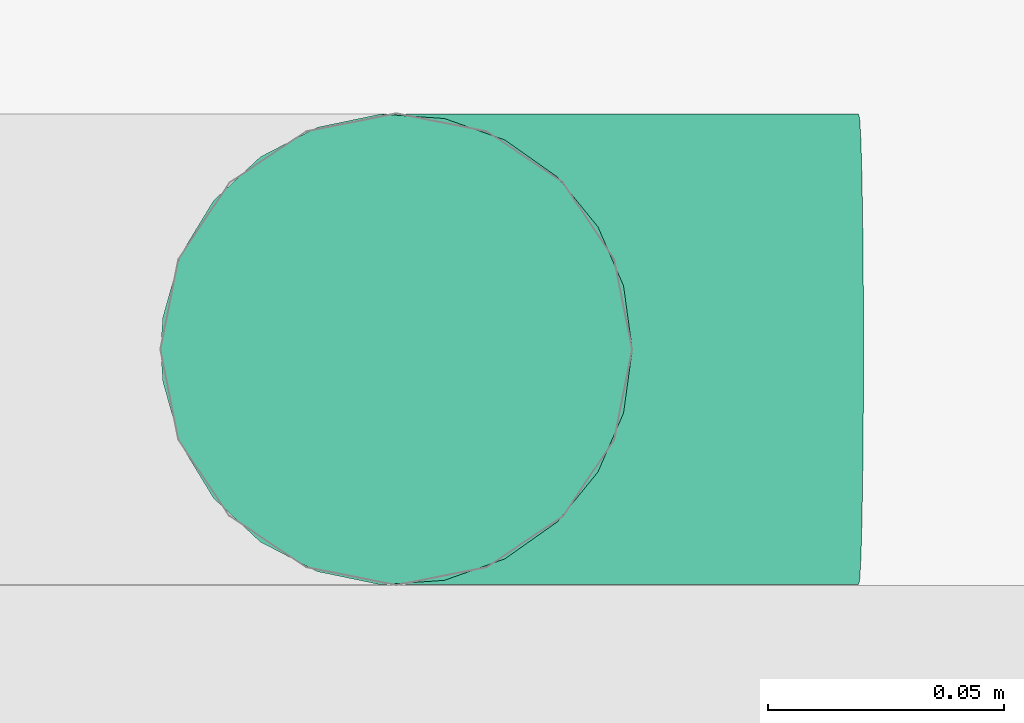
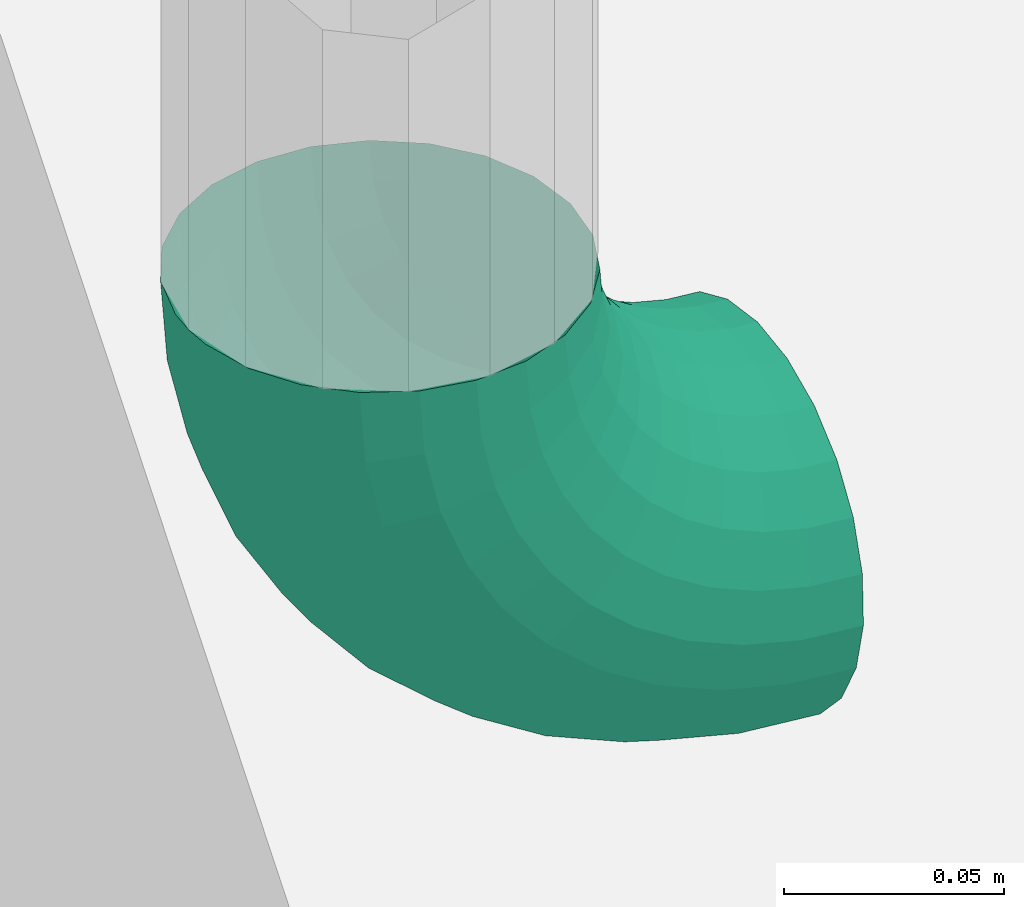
# One storey, part 89 of 106: 1 flow fitting.
"""IFC2X3 building model written with IfcOpenShell, lengths in metres."""

from ifc_helpers import new_model, entity, si_unit, converted_unit, derived_unit, money_unit, direction, frame, origin_with_axes, place, context, subcontext, project, spatial, open_shell, surface_model, material, type_object, element, save


model = new_model("IFC2X3")

# Units and contexts
model_context = context("Model", 3, precision=1e-05, world=origin_with_axes(), true_north=direction((0.0, 1.0)))
body_context = subcontext(model_context, "Body", "Model", "MODEL_VIEW", scale=1.0)
ifc_project = project(units=[si_unit("LENGTHUNIT", "METRE"), si_unit("AREAUNIT", "SQUARE_METRE"), si_unit("VOLUMEUNIT", "CUBIC_METRE"), si_unit("ABSORBEDDOSEUNIT", "GRAY"), si_unit("AMOUNTOFSUBSTANCEUNIT", "MOLE"), si_unit("DOSEEQUIVALENTUNIT", "SIEVERT"), si_unit("ELECTRICCAPACITANCEUNIT", "FARAD"), si_unit("ELECTRICCHARGEUNIT", "COULOMB"), si_unit("ELECTRICCONDUCTANCEUNIT", "SIEMENS"), si_unit("ELECTRICCURRENTUNIT", "AMPERE"), si_unit("ELECTRICRESISTANCEUNIT", "OHM"), si_unit("ELECTRICVOLTAGEUNIT", "VOLT"), si_unit("ENERGYUNIT", "JOULE"), si_unit("FORCEUNIT", "NEWTON"), si_unit("FREQUENCYUNIT", "HERTZ"), si_unit("ILLUMINANCEUNIT", "LUX"), si_unit("INDUCTANCEUNIT", "HENRY"), si_unit("LUMINOUSFLUXUNIT", "LUMEN"), si_unit("LUMINOUSINTENSITYUNIT", "CANDELA"), si_unit("MAGNETICFLUXDENSITYUNIT", "TESLA"), si_unit("MAGNETICFLUXUNIT", "WEBER"), si_unit("MASSUNIT", "GRAM"), converted_unit("PLANEANGLEUNIT", "degree", entity("IfcReal", 0.0174532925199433), si_unit("PLANEANGLEUNIT", "RADIAN"), dimensions=[0, 0, 0, 0, 0, 0, 0]), si_unit("POWERUNIT", "WATT"), si_unit("PRESSUREUNIT", "PASCAL"), si_unit("RADIOACTIVITYUNIT", "BECQUEREL"), si_unit("SOLIDANGLEUNIT", "STERADIAN"), si_unit("THERMODYNAMICTEMPERATUREUNIT", "KELVIN"), si_unit("TIMEUNIT", "SECOND"), derived_unit("ACCELERATIONUNIT", [(si_unit("LENGTHUNIT", "METRE"), 1), (si_unit("TIMEUNIT", "SECOND"), -2)]), derived_unit("ANGULARVELOCITYUNIT", [(converted_unit("PLANEANGLEUNIT", "degree", entity("IfcReal", 0.0174532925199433), si_unit("PLANEANGLEUNIT", "RADIAN"), dimensions=[0, 0, 0, 0, 0, 0, 0]), 1), (si_unit("TIMEUNIT", "SECOND"), -1)]), derived_unit("CURVATUREUNIT", [(converted_unit("PLANEANGLEUNIT", "degree", entity("IfcReal", 0.0174532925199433), si_unit("PLANEANGLEUNIT", "RADIAN"), dimensions=[0, 0, 0, 0, 0, 0, 0]), 1), (si_unit("LENGTHUNIT", "METRE"), -1)]), derived_unit("DYNAMICVISCOSITYUNIT", [(si_unit("PRESSUREUNIT", "PASCAL"), 1), (si_unit("TIMEUNIT", "SECOND"), 1)]), derived_unit("HEATFLUXDENSITYUNIT", [(si_unit("POWERUNIT", "WATT"), 1), (si_unit("LENGTHUNIT", "METRE"), -2)]), derived_unit("HEATINGVALUEUNIT", [(si_unit("ENERGYUNIT", "JOULE"), 1), (si_unit("MASSUNIT", "GRAM"), -1)]), derived_unit("INTEGERCOUNTRATEUNIT", [(si_unit("TIMEUNIT", "SECOND"), -1)]), derived_unit("IONCONCENTRATIONUNIT", [(si_unit("MASSUNIT", "GRAM"), 1), (si_unit("VOLUMEUNIT", "CUBIC_METRE"), -1)]), derived_unit("ISOTHERMALMOISTURECAPACITYUNIT", [(si_unit("VOLUMEUNIT", "CUBIC_METRE"), 1), (si_unit("MASSUNIT", "GRAM"), -1)]), derived_unit("KINEMATICVISCOSITYUNIT", [(si_unit("AREAUNIT", "SQUARE_METRE"), 1), (si_unit("TIMEUNIT", "SECOND"), -1)]), derived_unit("LINEARFORCEUNIT", [(si_unit("FORCEUNIT", "NEWTON"), 1), (si_unit("LENGTHUNIT", "METRE"), -1)]), derived_unit("LINEARMOMENTUNIT", [(si_unit("FORCEUNIT", "NEWTON"), 1), (si_unit("LENGTHUNIT", "METRE"), -1)]), derived_unit("LINEARSTIFFNESSUNIT", [(si_unit("FORCEUNIT", "NEWTON"), 1), (si_unit("LENGTHUNIT", "METRE"), -1)]), derived_unit("LINEARVELOCITYUNIT", [(si_unit("LENGTHUNIT", "METRE"), 1), (si_unit("TIMEUNIT", "SECOND"), -1)]), derived_unit("LUMINOUSINTENSITYDISTRIBUTIONUNIT", [(si_unit("LUMINOUSINTENSITYUNIT", "CANDELA"), 1), (si_unit("LUMINOUSFLUXUNIT", "LUMEN"), -1)]), derived_unit("MASSDENSITYUNIT", [(si_unit("MASSUNIT", "GRAM"), 1), (si_unit("VOLUMEUNIT", "CUBIC_METRE"), -1)]), derived_unit("MASSFLOWRATEUNIT", [(si_unit("MASSUNIT", "GRAM"), 1), (si_unit("TIMEUNIT", "SECOND"), -1)]), derived_unit("MASSPERLENGTHUNIT", [(si_unit("MASSUNIT", "GRAM"), 1), (si_unit("LENGTHUNIT", "METRE"), -1)]), derived_unit("MODULUSOFELASTICITYUNIT", [(si_unit("FORCEUNIT", "NEWTON"), 1), (si_unit("AREAUNIT", "SQUARE_METRE"), -1)]), derived_unit("MODULUSOFLINEARSUBGRADEREACTIONUNIT", [(si_unit("FORCEUNIT", "NEWTON"), 1), (si_unit("LENGTHUNIT", "METRE"), -2)]), derived_unit("MODULUSOFROTATIONALSUBGRADEREACTIONUNIT", [(si_unit("FORCEUNIT", "NEWTON"), 1), (si_unit("LENGTHUNIT", "METRE"), 1)]), derived_unit("MODULUSOFSUBGRADEREACTIONUNIT", [(si_unit("FORCEUNIT", "NEWTON"), 1), (si_unit("VOLUMEUNIT", "CUBIC_METRE"), -1)]), derived_unit("MOISTUREDIFFUSIVITYUNIT", [(si_unit("VOLUMEUNIT", "CUBIC_METRE"), 1), (si_unit("TIMEUNIT", "SECOND"), -1)]), derived_unit("MOLECULARWEIGHTUNIT", [(si_unit("MASSUNIT", "GRAM"), 1), (si_unit("AMOUNTOFSUBSTANCEUNIT", "MOLE"), -1)]), derived_unit("PLANARFORCEUNIT", [(si_unit("FORCEUNIT", "NEWTON"), 1), (si_unit("LENGTHUNIT", "METRE"), -2)]), derived_unit("ROTATIONALFREQUENCYUNIT", [(si_unit("TIMEUNIT", "SECOND"), -1)]), derived_unit("ROTATIONALMASSUNIT", [(si_unit("MASSUNIT", "GRAM"), 1), (si_unit("LENGTHUNIT", "METRE"), 2)]), derived_unit("ROTATIONALSTIFFNESSUNIT", [(si_unit("FORCEUNIT", "NEWTON"), 1), (si_unit("LENGTHUNIT", "METRE"), 1), (converted_unit("PLANEANGLEUNIT", "degree", entity("IfcReal", 0.0174532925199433), si_unit("PLANEANGLEUNIT", "RADIAN"), dimensions=[0, 0, 0, 0, 0, 0, 0]), -1)]), derived_unit("SECTIONAREAINTEGRALUNIT", [(si_unit("LENGTHUNIT", "METRE"), 5)]), derived_unit("SECTIONMODULUSUNIT", [(si_unit("LENGTHUNIT", "METRE"), 3)]), derived_unit("SHEARMODULUSUNIT", [(si_unit("FORCEUNIT", "NEWTON"), 1), (si_unit("AREAUNIT", "SQUARE_METRE"), -1)]), derived_unit("SOUNDPOWERUNIT", [(si_unit("ENERGYUNIT", "JOULE"), 1), (si_unit("TIMEUNIT", "SECOND"), -1)]), derived_unit("SPECIFICHEATCAPACITYUNIT", [(si_unit("FORCEUNIT", "NEWTON"), 1), (si_unit("MASSUNIT", "GRAM"), -1), (si_unit("THERMODYNAMICTEMPERATUREUNIT", "KELVIN"), -1)]), derived_unit("TEMPERATUREGRADIENTUNIT", [(si_unit("THERMODYNAMICTEMPERATUREUNIT", "KELVIN"), 1), (si_unit("LENGTHUNIT", "METRE"), -1)]), derived_unit("THERMALADMITTANCEUNIT", [(si_unit("POWERUNIT", "WATT"), 1), (si_unit("AREAUNIT", "SQUARE_METRE"), -1), (si_unit("THERMODYNAMICTEMPERATUREUNIT", "KELVIN"), -1)]), derived_unit("THERMALCONDUCTANCEUNIT", [(si_unit("POWERUNIT", "WATT"), 1), (si_unit("LENGTHUNIT", "METRE"), -1), (si_unit("THERMODYNAMICTEMPERATUREUNIT", "KELVIN"), -1)]), derived_unit("THERMALEXPANSIONCOEFFICIENTUNIT", [(si_unit("THERMODYNAMICTEMPERATUREUNIT", "KELVIN"), -1)]), derived_unit("THERMALRESISTANCEUNIT", [(si_unit("AREAUNIT", "SQUARE_METRE"), 1), (si_unit("POWERUNIT", "WATT"), -1)]), derived_unit("THERMALTRANSMITTANCEUNIT", [(si_unit("POWERUNIT", "WATT"), 1), (si_unit("AREAUNIT", "SQUARE_METRE"), -1), (si_unit("THERMODYNAMICTEMPERATUREUNIT", "KELVIN"), -1)]), derived_unit("TORQUEUNIT", [(si_unit("FORCEUNIT", "NEWTON"), 1), (si_unit("LENGTHUNIT", "METRE"), 1)]), derived_unit("VAPORPERMEABILITYUNIT", [(si_unit("MASSUNIT", "GRAM"), 1), (si_unit("TIMEUNIT", "SECOND"), -1)]), derived_unit("VOLUMETRICFLOWRATEUNIT", [(si_unit("VOLUMEUNIT", "CUBIC_METRE"), 1), (si_unit("TIMEUNIT", "SECOND"), -1)]), derived_unit("WARPINGCONSTANTUNIT", [(si_unit("LENGTHUNIT", "METRE"), 6)]), derived_unit("WARPINGMOMENTUNIT", [(si_unit("FORCEUNIT", "NEWTON"), 1), (si_unit("LENGTHUNIT", "METRE"), 2)]), money_unit("GBP")], contexts=[model_context])

# Site, building, storey, space
site_placement = place(None, origin_with_axes())
site = spatial("IfcSite", under=ifc_project, at=site_placement, Name="Site", CompositionType="ELEMENT")
building_placement = place(site_placement, origin_with_axes())
building = spatial("IfcBuilding", under=site, at=building_placement, Name="Building01", CompositionType="ELEMENT")
storey_placement = place(building_placement, origin_with_axes())
storey = spatial("IfcBuildingStorey", under=building, at=storey_placement, Name="GF", CompositionType="ELEMENT", Elevation=0.0)
space_placement = place(storey_placement, frame((12.311434, 15.867846, 0.0), z_axis=(0.0, 0.0, 1.0), x_axis=(0.0, 1.0, 0.0)))
space = spatial("IfcSpace", under=storey, at=space_placement, Name="1", CompositionType="ELEMENT", InteriorOrExteriorSpace="NOTDEFINED")

# Flow fitting
ifc_material = material(Name="M_BSUK_ColdWater")
pipe_fitting_type = type_object("IfcPipeFittingType", Name="M-BmpElbow-DefaultElbow", PredefinedType="BEND")
flow_fitting_placement = place(storey_placement, frame((9.641038, 14.95, 0.055189), z_axis=(-0.01999682, 0.0, -0.99980004), x_axis=(0.99980004, 0.0, -0.01999682)))
element("IfcFlowFitting", 1, at=flow_fitting_placement, inside=space, type_object=pipe_fitting_type, material=ifc_material, Name="M-BmpElbow-DefaultElbow", ObjectType="M-BmpElbow-DefaultElbow", context=body_context, shape_type="SurfaceModel", body=[
    surface_model("IfcShellBasedSurfaceModel", [(-0.008009, -0.01349, -0.048768), (0.0, -0.01349, -0.048146), (0.0, 0.0, -0.05), (-0.007723, 0.0, -0.0506), (-0.015826, -0.01349, -0.05062), (-0.015261, 0.0, -0.052386), (-0.023264, -0.01349, -0.053657), (-0.022432, 0.0, -0.055314), (-0.030143, -0.01349, -0.057807), (-0.029065, 0.0, -0.059315), (-0.036298, -0.01349, -0.062969), (-0.035, 0.0, -0.064293), (-0.041582, -0.01349, -0.06902), (-0.040095, 0.0, -0.070127), (-0.045868, -0.01349, -0.075814), (-0.044228, 0.0, -0.076679), (-0.049054, -0.01349, -0.083189), (-0.0473, 0.0, -0.08379), (-0.051061, -0.01349, -0.090968), (-0.049236, 0.0, -0.091291), (-0.051844, -0.01349, -0.098963), (-0.04999, 0.0, -0.099), (-0.008847, -0.025979, -0.043408), (0.0, -0.025979, -0.042721), (-0.017482, -0.025979, -0.045454), (-0.025697, -0.025979, -0.048809), (-0.033296, -0.025979, -0.053392), (-0.040095, -0.025979, -0.059095), (-0.045932, -0.025979, -0.065779), (-0.050667, -0.025979, -0.073284), (-0.054185, -0.025979, -0.081431), (-0.056403, -0.025979, -0.090023), (-0.057268, -0.025979, -0.098855), (-0.010175, -0.036542, -0.034918), (0.0, -0.036542, -0.034128), (-0.020105, -0.036542, -0.037271), (-0.029553, -0.036542, -0.041129), (-0.038291, -0.036542, -0.0464), (-0.046111, -0.036542, -0.052958), (-0.052823, -0.036542, -0.060645), (-0.058268, -0.036542, -0.069276), (-0.062315, -0.036542, -0.078645), (-0.064865, -0.036542, -0.088526), (-0.065859, -0.036542, -0.098683), (-0.011893, -0.044394, -0.023927), (0.0, -0.044394, -0.023003), (-0.0235, -0.044394, -0.026677), (-0.034544, -0.044394, -0.031187), (-0.044758, -0.044394, -0.037348), (-0.053898, -0.044394, -0.045013), (-0.061744, -0.044394, -0.053998), (-0.068109, -0.044394, -0.064087), (-0.072838, -0.044394, -0.075038), (-0.07582, -0.044394, -0.086588), (-0.076981, -0.044394, -0.09846), (-0.013875, -0.048954, -0.011251), (0.0, -0.048954, -0.010173), (-0.027416, -0.048954, -0.014459), (-0.0403, -0.048954, -0.01972), (-0.052216, -0.048954, -0.026908), (-0.062879, -0.048954, -0.035851), (-0.072033, -0.048954, -0.046333), (-0.079458, -0.048954, -0.058103), (-0.084976, -0.048954, -0.070879), (-0.088454, -0.048954, -0.084353), (-0.089809, -0.048954, -0.098204), (-0.015973, -0.049883, 0.002171), (0.0, -0.049883, 0.003412), (-0.031562, -0.049883, -0.001522), (-0.046394, -0.049883, -0.007579), (-0.060113, -0.049883, -0.015854), (-0.072389, -0.049883, -0.026149), (-0.082927, -0.049883, -0.038216), (-0.091475, -0.049883, -0.051767), (-0.097827, -0.049883, -0.066475), (-0.101831, -0.049883, -0.081987), (-0.103391, -0.049883, -0.097932), (-0.018032, -0.047113, 0.015343), (0.0, -0.047113, 0.016744), (-0.035632, -0.047113, 0.011174), (-0.052376, -0.047113, 0.004336), (-0.067863, -0.047113, -0.005006), (-0.081721, -0.047113, -0.016628), (-0.093618, -0.047113, -0.030251), (-0.103268, -0.047113, -0.045548), (-0.110439, -0.047113, -0.062153), (-0.114959, -0.047113, -0.079665), (-0.116721, -0.047113, -0.097665), (-0.0199, -0.040848, 0.027288), (0.0, -0.040848, 0.028834), (-0.039322, -0.040848, 0.022687), (-0.0578, -0.040848, 0.015141), (-0.074891, -0.040848, 0.004831), (-0.090184, -0.040848, -0.007994), (-0.103313, -0.040848, -0.023028), (-0.113962, -0.040848, -0.039909), (-0.121876, -0.040848, -0.058233), (-0.126865, -0.040848, -0.077559), (-0.128808, -0.040848, -0.097424), (-0.021437, -0.031554, 0.03712), (0.0, -0.031554, 0.038786), (-0.042359, -0.031554, 0.032163), (-0.062264, -0.031554, 0.024035), (-0.080675, -0.031554, 0.012929), (-0.09715, -0.031554, -0.000887), (-0.111293, -0.031554, -0.017083), (-0.122765, -0.031554, -0.035268), (-0.13129, -0.031554, -0.055007), (-0.136664, -0.031554, -0.075826), (-0.138758, -0.031554, -0.097225), (-0.022529, -0.01992, 0.04411), (0.0, -0.01992, 0.045861), (-0.044518, -0.01992, 0.038901), (-0.065438, -0.01992, 0.030358), (-0.084788, -0.01992, 0.018686), (-0.102103, -0.01992, 0.004165), (-0.116966, -0.01992, -0.012856), (-0.129023, -0.01992, -0.031968), (-0.137983, -0.01992, -0.052713), (-0.143631, -0.01992, -0.074593), (-0.145831, -0.01992, -0.097083), (-0.023097, -0.006808, 0.04774), (0.0, -0.006808, 0.049534), (-0.045639, -0.006808, 0.042399), (-0.067087, -0.006808, 0.033641), (-0.086924, -0.006808, 0.021675), (-0.104674, -0.006808, 0.006789), (-0.119912, -0.006808, -0.010661), (-0.132273, -0.006808, -0.030254), (-0.141458, -0.006808, -0.051522), (-0.147248, -0.006808, -0.073953), (-0.149504, -0.006808, -0.09701), (0.0, 0.0, 0.05), (-0.045639, 0.006808, 0.042399), (-0.023097, 0.006808, 0.04774), (-0.067087, 0.006808, 0.033641), (-0.086924, 0.006808, 0.021675), (-0.104674, 0.006808, 0.006789), (-0.119912, 0.006808, -0.010661), (-0.132273, 0.006808, -0.030254), (-0.141458, 0.006808, -0.051522), (-0.147248, 0.006808, -0.073953), (-0.14997, 0.0, -0.097), (-0.149504, 0.006808, -0.09701), (-0.022529, 0.01992, 0.04411), (0.0, 0.01992, 0.045861), (0.0, 0.006808, 0.049534), (-0.044518, 0.01992, 0.038901), (-0.065438, 0.01992, 0.030358), (-0.084788, 0.01992, 0.018686), (-0.102103, 0.01992, 0.004165), (-0.116966, 0.01992, -0.012856), (-0.129023, 0.01992, -0.031968), (-0.137983, 0.01992, -0.052713), (-0.143631, 0.01992, -0.074593), (-0.145831, 0.01992, -0.097083), (-0.021437, 0.031554, 0.03712), (0.0, 0.031554, 0.038786), (-0.042359, 0.031554, 0.032163), (-0.062264, 0.031554, 0.024035), (-0.080675, 0.031554, 0.012929), (-0.09715, 0.031554, -0.000887), (-0.111293, 0.031554, -0.017083), (-0.122765, 0.031554, -0.035268), (-0.13129, 0.031554, -0.055007), (-0.136664, 0.031554, -0.075826), (-0.138758, 0.031554, -0.097225), (-0.0199, 0.040848, 0.027288), (0.0, 0.040848, 0.028834), (-0.039322, 0.040848, 0.022687), (-0.0578, 0.040848, 0.015141), (-0.074891, 0.040848, 0.004831), (-0.090184, 0.040848, -0.007994), (-0.103313, 0.040848, -0.023028), (-0.113962, 0.040848, -0.039909), (-0.121876, 0.040848, -0.058233), (-0.126865, 0.040848, -0.077559), (-0.128808, 0.040848, -0.097424), (-0.018032, 0.047113, 0.015343), (0.0, 0.047113, 0.016744), (-0.035632, 0.047113, 0.011174), (-0.052376, 0.047113, 0.004336), (-0.067863, 0.047113, -0.005006), (-0.081721, 0.047113, -0.016628), (-0.093618, 0.047113, -0.030251), (-0.103268, 0.047113, -0.045548), (-0.110439, 0.047113, -0.062153), (-0.114959, 0.047113, -0.079665), (-0.116721, 0.047113, -0.097665), (-0.015973, 0.049883, 0.002171), (0.0, 0.049883, 0.003412), (-0.031562, 0.049883, -0.001522), (-0.046394, 0.049883, -0.007579), (-0.060113, 0.049883, -0.015854), (-0.072389, 0.049883, -0.026149), (-0.082927, 0.049883, -0.038216), (-0.091475, 0.049883, -0.051767), (-0.097827, 0.049883, -0.066475), (-0.101831, 0.049883, -0.081987), (-0.103391, 0.049883, -0.097932), (-0.013875, 0.048954, -0.011251), (0.0, 0.048954, -0.010173), (-0.027416, 0.048954, -0.014459), (-0.0403, 0.048954, -0.01972), (-0.052216, 0.048954, -0.026908), (-0.062879, 0.048954, -0.035851), (-0.072033, 0.048954, -0.046333), (-0.079458, 0.048954, -0.058103), (-0.084976, 0.048954, -0.070879), (-0.088454, 0.048954, -0.084353), (-0.089809, 0.048954, -0.098204), (-0.011893, 0.044394, -0.023927), (0.0, 0.044394, -0.023003), (-0.0235, 0.044394, -0.026677), (-0.034544, 0.044394, -0.031187), (-0.044758, 0.044394, -0.037348), (-0.053898, 0.044394, -0.045013), (-0.061744, 0.044394, -0.053998), (-0.068109, 0.044394, -0.064087), (-0.072838, 0.044394, -0.075038), (-0.07582, 0.044394, -0.086588), (-0.076981, 0.044394, -0.09846), (-0.010175, 0.036542, -0.034918), (0.0, 0.036542, -0.034128), (-0.020105, 0.036542, -0.037271), (-0.029553, 0.036542, -0.041129), (-0.038291, 0.036542, -0.0464), (-0.046111, 0.036542, -0.052958), (-0.052823, 0.036542, -0.060645), (-0.058268, 0.036542, -0.069276), (-0.062315, 0.036542, -0.078645), (-0.064865, 0.036542, -0.088526), (-0.065859, 0.036542, -0.098683), (-0.008847, 0.025979, -0.043408), (0.0, 0.025979, -0.042721), (-0.017482, 0.025979, -0.045454), (-0.025697, 0.025979, -0.048809), (-0.033296, 0.025979, -0.053392), (-0.040095, 0.025979, -0.059095), (-0.045932, 0.025979, -0.065779), (-0.050667, 0.025979, -0.073284), (-0.054185, 0.025979, -0.081431), (-0.056403, 0.025979, -0.090023), (-0.057268, 0.025979, -0.098855), (-0.008009, 0.01349, -0.048768), (0.0, 0.01349, -0.048146), (-0.015826, 0.01349, -0.05062), (-0.023264, 0.01349, -0.053657), (-0.030143, 0.01349, -0.057807), (-0.036298, 0.01349, -0.062969), (-0.041582, 0.01349, -0.06902), (-0.045868, 0.01349, -0.075814), (-0.049054, 0.01349, -0.083189), (-0.051061, 0.01349, -0.090968), (-0.051844, 0.01349, -0.098963)], [open_shell([[[0, 1, 2, 3]], [[4, 0, 3, 5]], [[6, 4, 5, 7]], [[8, 6, 7, 9]], [[10, 8, 9, 11]], [[12, 10, 11, 13]], [[14, 12, 13, 15]], [[16, 14, 15, 17]], [[18, 16, 17, 19]], [[20, 18, 19, 21]], [[22, 23, 1, 0]], [[24, 22, 0, 4]], [[25, 24, 4, 6]], [[26, 25, 6, 8]], [[27, 26, 8, 10]], [[28, 27, 10, 12]], [[29, 28, 12, 14]], [[30, 29, 14, 16]], [[31, 30, 16, 18]], [[32, 31, 18, 20]], [[33, 34, 23, 22]], [[35, 33, 22, 24]], [[36, 35, 24, 25]], [[37, 36, 25, 26]], [[38, 37, 26, 27]], [[39, 38, 27, 28]], [[40, 39, 28, 29]], [[41, 40, 29, 30]], [[42, 41, 30, 31]], [[43, 42, 31, 32]], [[44, 45, 34, 33]], [[46, 44, 33, 35]], [[47, 46, 35, 36]], [[48, 47, 36, 37]], [[49, 48, 37, 38]], [[50, 49, 38, 39]], [[51, 50, 39, 40]], [[52, 51, 40, 41]], [[53, 52, 41, 42]], [[54, 53, 42, 43]], [[55, 56, 45, 44]], [[57, 55, 44, 46]], [[58, 57, 46, 47]], [[59, 58, 47, 48]], [[60, 59, 48, 49]], [[61, 60, 49, 50]], [[62, 61, 50, 51]], [[63, 62, 51, 52]], [[64, 63, 52, 53]], [[65, 64, 53, 54]], [[66, 67, 56, 55]], [[68, 66, 55, 57]], [[69, 68, 57, 58]], [[70, 69, 58, 59]], [[71, 70, 59, 60]], [[72, 71, 60, 61]], [[73, 72, 61, 62]], [[74, 73, 62, 63]], [[75, 74, 63, 64]], [[76, 75, 64, 65]], [[77, 78, 67, 66]], [[79, 77, 66, 68]], [[80, 79, 68, 69]], [[81, 80, 69, 70]], [[82, 81, 70, 71]], [[83, 82, 71, 72]], [[84, 83, 72, 73]], [[85, 84, 73, 74]], [[86, 85, 74, 75]], [[87, 86, 75, 76]], [[88, 89, 78, 77]], [[90, 88, 77, 79]], [[91, 90, 79, 80]], [[92, 91, 80, 81]], [[93, 92, 81, 82]], [[94, 93, 82, 83]], [[95, 94, 83, 84]], [[96, 95, 84, 85]], [[97, 96, 85, 86]], [[98, 97, 86, 87]], [[99, 100, 89, 88]], [[101, 99, 88, 90]], [[102, 101, 90, 91]], [[103, 102, 91, 92]], [[104, 103, 92, 93]], [[105, 104, 93, 94]], [[106, 105, 94, 95]], [[107, 106, 95, 96]], [[108, 107, 96, 97]], [[109, 108, 97, 98]], [[110, 111, 100, 99]], [[112, 110, 99, 101]], [[113, 112, 101, 102]], [[114, 113, 102, 103]], [[115, 114, 103, 104]], [[116, 115, 104, 105]], [[117, 116, 105, 106]], [[118, 117, 106, 107]], [[119, 118, 107, 108]], [[120, 119, 108, 109]], [[121, 122, 111, 110]], [[123, 121, 110, 112]], [[124, 123, 112, 113]], [[125, 124, 113, 114]], [[126, 125, 114, 115]], [[127, 126, 115, 116]], [[128, 127, 116, 117]], [[129, 128, 117, 118]], [[130, 129, 118, 119]], [[131, 130, 119, 120]], [[132, 122, 121]], [[133, 134, 121, 123]], [[135, 133, 123, 124]], [[136, 135, 124, 125]], [[137, 136, 125, 126]], [[138, 137, 126, 127]], [[139, 138, 127, 128]], [[140, 139, 128, 129]], [[141, 140, 129, 130]], [[142, 143, 141]], [[144, 145, 146, 134]], [[147, 144, 134, 133]], [[148, 147, 133, 135]], [[149, 148, 135, 136]], [[150, 149, 136, 137]], [[151, 150, 137, 138]], [[152, 151, 138, 139]], [[153, 152, 139, 140]], [[154, 153, 140, 141]], [[155, 154, 141, 143]], [[156, 157, 145, 144]], [[158, 156, 144, 147]], [[159, 158, 147, 148]], [[160, 159, 148, 149]], [[161, 160, 149, 150]], [[162, 161, 150, 151]], [[163, 162, 151, 152]], [[164, 163, 152, 153]], [[165, 164, 153, 154]], [[166, 165, 154, 155]], [[167, 168, 157, 156]], [[169, 167, 156, 158]], [[170, 169, 158, 159]], [[171, 170, 159, 160]], [[172, 171, 160, 161]], [[173, 172, 161, 162]], [[174, 173, 162, 163]], [[175, 174, 163, 164]], [[176, 175, 164, 165]], [[177, 176, 165, 166]], [[178, 179, 168, 167]], [[180, 178, 167, 169]], [[181, 180, 169, 170]], [[182, 181, 170, 171]], [[183, 182, 171, 172]], [[184, 183, 172, 173]], [[185, 184, 173, 174]], [[186, 185, 174, 175]], [[187, 186, 175, 176]], [[188, 187, 176, 177]], [[189, 190, 179, 178]], [[191, 189, 178, 180]], [[192, 191, 180, 181]], [[193, 192, 181, 182]], [[194, 193, 182, 183]], [[195, 194, 183, 184]], [[196, 195, 184, 185]], [[197, 196, 185, 186]], [[198, 197, 186, 187]], [[199, 198, 187, 188]], [[200, 201, 190, 189]], [[202, 200, 189, 191]], [[203, 202, 191, 192]], [[204, 203, 192, 193]], [[205, 204, 193, 194]], [[206, 205, 194, 195]], [[207, 206, 195, 196]], [[208, 207, 196, 197]], [[209, 208, 197, 198]], [[210, 209, 198, 199]], [[211, 212, 201, 200]], [[213, 211, 200, 202]], [[214, 213, 202, 203]], [[215, 214, 203, 204]], [[216, 215, 204, 205]], [[217, 216, 205, 206]], [[218, 217, 206, 207]], [[219, 218, 207, 208]], [[220, 219, 208, 209]], [[221, 220, 209, 210]], [[222, 223, 212, 211]], [[224, 222, 211, 213]], [[225, 224, 213, 214]], [[226, 225, 214, 215]], [[227, 226, 215, 216]], [[228, 227, 216, 217]], [[229, 228, 217, 218]], [[230, 229, 218, 219]], [[231, 230, 219, 220]], [[232, 231, 220, 221]], [[233, 234, 223, 222]], [[235, 233, 222, 224]], [[236, 235, 224, 225]], [[237, 236, 225, 226]], [[238, 237, 226, 227]], [[239, 238, 227, 228]], [[240, 239, 228, 229]], [[241, 240, 229, 230]], [[242, 241, 230, 231]], [[243, 242, 231, 232]], [[244, 245, 234, 233]], [[246, 244, 233, 235]], [[247, 246, 235, 236]], [[248, 247, 236, 237]], [[249, 248, 237, 238]], [[250, 249, 238, 239]], [[251, 250, 239, 240]], [[252, 251, 240, 241]], [[253, 252, 241, 242]], [[254, 253, 242, 243]], [[3, 2, 245, 244]], [[5, 3, 244, 246]], [[7, 5, 246, 247]], [[9, 7, 247, 248]], [[11, 9, 248, 249]], [[13, 11, 249, 250]], [[15, 13, 250, 251]], [[17, 15, 251, 252]], [[19, 17, 252, 253]], [[21, 19, 253, 254]], [[130, 131, 142]], [[141, 130, 142]], [[132, 121, 134]], [[134, 146, 132]]])]),
])

save(model, "model.ifc")
